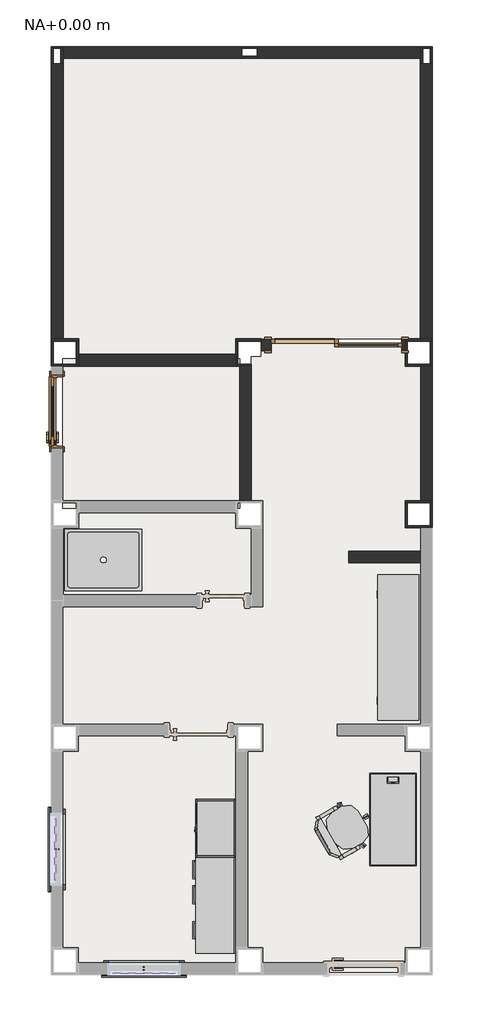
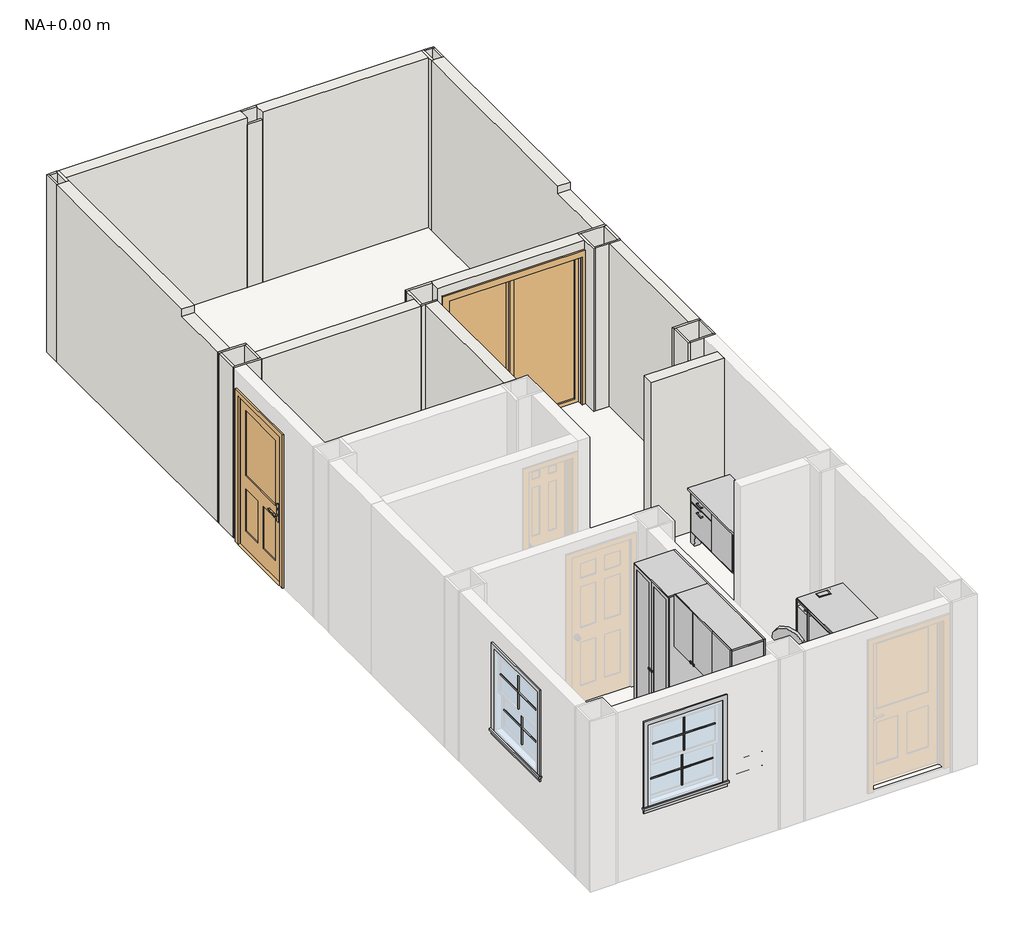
# One storey, part 2 of 2: 32 walls, 8 proxies, 4 furniture elements, 3 slabs, 2 doors, 1 flow terminal.
"""IFC4 building model written with IfcOpenShell, lengths in millimetres."""

from ifc_helpers import new_model, si_unit, origin, origin_with_axes, place, context, project, spatial, polyline, outline, extrude, faceted_brep, transform, mapped, element, save
from components import generic_models_dbf21484, generic_models_88e86241, m_moldura_ventana_exterior_plana_con_antepecho_fe713c81, door_750_x_2400mm_4532b83f, m_puerta_corredera_dos_hojas_1700_x_2000mm_d36f6dca, flow_terminal_1000_x_800_mm_dd5a154a, furniture_a6d00652, furniture_878a3a28, blanco_a21738ea, f03307_es_escritorio_frame_2019_0ddade11

model = new_model("IFC4")

# Units and contexts
model_context = context("Model", 3, world=origin())
ifc_project = project(units=[si_unit("LENGTHUNIT", "METRE", prefix="MILLI")], contexts=[model_context])

# Site, building, storey
site = spatial("IfcSite", under=ifc_project)
building = spatial("IfcBuilding", under=site)
storey = spatial("IfcBuildingStorey", under=building, Name="NA+0.00 m", Elevation=0.0)

# Proxies
placement = place(None, origin())
generic_models_shape = generic_models_dbf21484(model_context)
element("IfcBuildingElementProxy", 1, Name="M_Patrón de montante secundario_2x2 : M_Patrón de montante secundario_2x2", ObjectType="M_Patrón de montante secundario_2x2 : M_Patrón de montante secundario_2x2", at=placement, inside=storey, context=model_context, shape_type="MappedRepresentation", body=[
    mapped(generic_models_shape, transform((-1037.7561082, -5537.1867862, 1486.625), x_axis=(0.0, 1.0, 0.0), y_axis=(-1.0, 0.0, 0.0), z_axis=(0.0, 0.0, 1.0))),
])
element("IfcBuildingElementProxy", 2, Name="M_Patrón de montante secundario_2x2 : M_Patrón de montante secundario_2x2", ObjectType="M_Patrón de montante secundario_2x2 : M_Patrón de montante secundario_2x2", at=placement, inside=storey, context=model_context, shape_type="MappedRepresentation", body=[
    mapped(generic_models_shape, transform((-993.3061082, -5537.1867862, 990.6), x_axis=(0.0, 1.0, 0.0), y_axis=(-1.0, 0.0, 0.0), z_axis=(0.0, 0.0, 1.0))),
])
generic_models_2_shape = generic_models_88e86241(model_context)
element("IfcBuildingElementProxy", 3, Name="M_Cubrejuntas-Ventana-Interior-Plano : Marco de cuadro", ObjectType="M_Cubrejuntas-Ventana-Interior-Plano : Marco de cuadro", at=placement, inside=storey, context=model_context, shape_type="MappedRepresentation", body=[
    mapped(generic_models_2_shape, transform((-922.6811082, -5537.1867862, 2014.4), x_axis=(0.0, 1.0, 0.0), y_axis=(0.0, 0.0, 1.0), z_axis=(1.0, 0.0, 0.0))),
])
element("IfcBuildingElementProxy", 4, Name="M_Patrón de montante secundario_2x2 : M_Patrón de montante secundario_2x2", ObjectType="M_Patrón de montante secundario_2x2 : M_Patrón de montante secundario_2x2", at=placement, inside=storey, context=model_context, shape_type="MappedRepresentation", body=[
    mapped(generic_models_shape, transform((132.3188918, -7127.2617862, 1486.625), x_axis=(-1.0, 0.0, 0.0), y_axis=(0.0, -1.0, 0.0), z_axis=(0.0, 0.0, 1.0))),
])
element("IfcBuildingElementProxy", 5, Name="M_Patrón de montante secundario_2x2 : M_Patrón de montante secundario_2x2", ObjectType="M_Patrón de montante secundario_2x2 : M_Patrón de montante secundario_2x2", at=placement, inside=storey, context=model_context, shape_type="MappedRepresentation", body=[
    mapped(generic_models_shape, transform((132.3188918, -7082.8117862, 990.6), x_axis=(-1.0, 0.0, 0.0), y_axis=(0.0, -1.0, 0.0), z_axis=(0.0, 0.0, 1.0))),
])
element("IfcBuildingElementProxy", 6, Name="M_Cubrejuntas-Ventana-Interior-Plano : Marco de cuadro", ObjectType="M_Cubrejuntas-Ventana-Interior-Plano : Marco de cuadro", at=placement, inside=storey, context=model_context, shape_type="MappedRepresentation", body=[
    mapped(generic_models_2_shape, transform((132.3188918, -7012.1867862, 2014.4), x_axis=(-1.0, 0.0, 0.0), y_axis=(0.0, 0.0, 1.0), z_axis=(0.0, 1.0, 0.0))),
])
m_moldura_ventana_exterior_plana_con_antepecho_shape = m_moldura_ventana_exterior_plana_con_antepecho_fe713c81(model_context)
element("IfcBuildingElementProxy", 7, Name="M_Moldura-Ventana-Exterior-Plana : con antepecho", ObjectType="M_Moldura-Ventana-Exterior-Plana : con antepecho", at=placement, inside=storey, context=model_context, shape_type="MappedRepresentation", body=[
    mapped(m_moldura_ventana_exterior_plana_con_antepecho_shape, transform((-1072.6811082, -5537.1867862, 2014.4), x_axis=(0.0, -1.0, 0.0), y_axis=(0.0, 0.0, 1.0), z_axis=(-1.0, 0.0, 0.0))),
])
element("IfcBuildingElementProxy", 8, Name="M_Moldura-Ventana-Exterior-Plana : con antepecho", ObjectType="M_Moldura-Ventana-Exterior-Plana : con antepecho", at=placement, inside=storey, context=model_context, shape_type="MappedRepresentation", body=[
    mapped(m_moldura_ventana_exterior_plana_con_antepecho_shape, transform((132.3188918, -7162.1867862, 2014.4), x_axis=(1.0, 0.0, 0.0), y_axis=(0.0, 0.0, 1.0), z_axis=(0.0, -1.0, 0.0))),
])

# Doors
door_750_x_2400mm_shape = door_750_x_2400mm_4532b83f(model_context)
element("IfcDoor", 9, ObjectType="M_Puerta-Exterior-Simple-Entrada-Cristal_plano_mitad-Revest_madera : 750 x 2400mm", at=placement, inside=storey, context=model_context, shape_type="MappedRepresentation", body=[
    mapped(door_750_x_2400mm_shape, transform((-1000.8561082, 147.8132138, 0.0), x_axis=(0.0, -1.0, 0.0), y_axis=(1.0, 0.0, 0.0), z_axis=(0.0, 0.0, 1.0))),
])
m_puerta_corredera_dos_hojas_1700_x_2000mm_shape = m_puerta_corredera_dos_hojas_1700_x_2000mm_d36f6dca(model_context)
element("IfcDoor", 10, ObjectType="M_Puerta-Corredera-Dos_hojas : 1700 x 2000mm", at=placement, inside=storey, context=model_context, shape_type="MappedRepresentation", body=[
    mapped(m_puerta_corredera_dos_hojas_1700_x_2000mm_shape, transform((2632.3188918, 885.8132138, 100.0), x_axis=(1.0, 0.0, 0.0), y_axis=(0.0, 1.0, 0.0), z_axis=(0.0, 0.0, 1.0))),
])

# Flow terminal
flow_terminal_1000_x_800_mm_shape = flow_terminal_1000_x_800_mm_dd5a154a(model_context)
element("IfcFlowTerminal", 11, ObjectType="Cubeta de ducha - Desagüe centrado : 1000 x 800 mm", at=placement, inside=storey, context=model_context, shape_type="MappedRepresentation", body=[
    mapped(flow_terminal_1000_x_800_mm_shape, transform((-395.1811082, -1777.1867862, 100.0), x_axis=(-1.0, 0.0, 0.0), y_axis=(0.0, -1.0, 0.0), z_axis=(0.0, 0.0, 1.0))),
])

# Furniture
furniture_shape = furniture_a6d00652(model_context)
element("IfcFurniture", 12, ObjectType="M_Silla-Ejecutivo : M_Silla-Ejecutivo", at=placement, inside=storey, context=model_context, shape_type="MappedRepresentation", body=[
    mapped(furniture_shape, transform((2655.2558662, -5158.7514752, 100.0), x_axis=(0.4999999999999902, -0.8660254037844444, 0.0), y_axis=(0.8660254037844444, 0.4999999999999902, 0.0), z_axis=(0.0, 0.0, 1.0))),
])
furniture_2_shape = furniture_878a3a28(model_context)
element("IfcFurniture", 13, ObjectType="Credencia 1 : 1830 x 610 x 734  mm", at=placement, inside=storey, context=model_context, shape_type="MappedRepresentation", body=[
    mapped(furniture_2_shape, transform((3442.7385639, -2856.2310484, 100.0), x_axis=(0.0, -1.0, 0.0), y_axis=(1.0, 0.0, 0.0), z_axis=(0.0, 0.0, 1.0))),
])
blanco_shape = blanco_a21738ea(model_context)
element("IfcFurniture", 14, ObjectType="F06582_ES_Cocina-Modulable-Botanic.2019 : Blanco", at=placement, inside=storey, context=model_context, shape_type="MappedRepresentation", body=[
    mapped(blanco_shape, transform((1012.3188918, -5144.6867862, 200.0), x_axis=(0.0, -1.0, 0.0), y_axis=(1.0, 0.0, 0.0), z_axis=(0.0, 0.0, 1.0))),
])
f03307_es_escritorio_frame_2019_shape = f03307_es_escritorio_frame_2019_0ddade11(model_context)
element("IfcFurniture", 15, ObjectType="F03307_ES_Escritorio-Frame.2019 : Único", at=placement, inside=storey, context=model_context, shape_type="MappedRepresentation", body=[
    mapped(f03307_es_escritorio_frame_2019_shape, transform((3064.8188918, -5149.6867862, 200.0), x_axis=(0.0, 1.0, 0.0), y_axis=(-1.0, 0.0, 0.0), z_axis=(0.0, 0.0, 1.0))),
])

# Slabs
element("IfcSlab", 16, ObjectType="HECM - Suelo de porcelanato Ease Sand 60x60", at=placement, inside=storey, context=model_context, shape_type="Brep", body=[
    faceted_brep([(-722.6811082, -7012.1867862, 0.0), (-722.6811082, -6812.1867862, 0.0), (-922.6811082, -6812.1867862, 0.0), (-922.6811082, -4262.1867862, 0.0), (-722.6811082, -4262.1867862, 0.0), (-722.6811082, -4062.1867862, 0.0), (402.3188918, -4062.1867862, 0.0), (402.3188918, -3912.1867862, 0.0), (-722.6811082, -3912.1867862, 0.0), (-917.6811082, -3912.1867862, 0.0), (-917.6811082, -2387.1867862, 0.0), (677.3188918, -2387.1867862, 0.0), (677.3188918, -2232.1867862, 0.0), (1522.3188918, -2232.1867862, 0.0), (1522.3188918, -2387.1867862, 0.0), (1677.3188918, -2387.1867862, 0.0), (1677.3188918, -1012.1867862, 0.0), (1527.3188918, -1012.1867862, 0.0), (1527.3188918, 862.8132138, 0.0), (1652.3188918, 862.8132138, 0.0), (1652.3188918, 937.8132138, 0.0), (1782.3188918, 937.8132138, 0.0), (1782.3188918, 1087.8132138, 0.0), (3482.3188918, 1087.8132138, 0.0), (3482.3188918, 937.8132138, 0.0), (3527.3188918, 937.8132138, 0.0), (3527.3188918, 737.8132138, 0.0), (3727.3188918, 737.8132138, 0.0), (3727.3188918, -1012.1867862, 0.0), (3527.3188918, -1012.1867862, 0.0), (3527.3188918, -1362.1867862, 0.0), (3727.3188918, -1362.1867862, 0.0), (3727.3188918, -1664.6867862, 0.0), (3727.3188918, -3912.1867862, 0.0), (2639.8188918, -3912.1867862, 0.0), (2639.8188918, -4062.1867862, 0.0), (3527.3188918, -4062.1867862, 0.0), (3527.3188918, -4262.1867862, 0.0), (3727.3188918, -4262.1867862, 0.0), (3727.3188918, -6812.1867862, 0.0), (3527.3188918, -6812.1867862, 0.0), (3527.3188918, -7012.1867862, 0.0), (3462.3188918, -7012.1867862, 0.0), (3462.3188918, -7137.1867862, 0.0), (2512.3188918, -7137.1867862, 0.0), (2512.3188918, -7012.1867862, 0.0), (1677.3188918, -7012.1867862, 0.0), (1677.3188918, -6812.1867862, 0.0), (1477.3188918, -6812.1867862, 0.0), (1477.3188918, -4262.1867862, 0.0), (1677.3188918, -4262.1867862, 0.0), (1677.3188918, -3912.1867862, 0.0), (1327.3188918, -3912.1867862, 0.0), (1252.3188918, -3912.1867862, 0.0), (1252.3188918, -4062.1867862, 0.0), (1327.3188918, -4062.1867862, 0.0), (1327.3188918, -7012.1867862, 0.0), (-722.6811082, -7012.1867862, 100.0), (1327.3188918, -7012.1867862, 100.0), (1327.3188918, -4062.1867862, 100.0), (1252.3188918, -4062.1867862, 100.0), (1252.3188918, -3912.1867862, 100.0), (1677.3188918, -3912.1867862, 100.0), (1677.3188918, -4262.1867862, 100.0), (1477.3188918, -4262.1867862, 100.0), (1477.3188918, -6812.1867862, 100.0), (1677.3188918, -6812.1867862, 100.0), (1677.3188918, -7012.1867862, 100.0), (2512.3188918, -7012.1867862, 100.0), (2512.3188918, -7137.1867862, 100.0), (3462.3188918, -7137.1867862, 100.0), (3462.3188918, -7012.1867862, 100.0), (3527.3188918, -7012.1867862, 100.0), (3527.3188918, -6812.1867862, 100.0), (3727.3188918, -6812.1867862, 100.0), (3727.3188918, -4262.1867862, 100.0), (3527.3188918, -4262.1867862, 100.0), (3527.3188918, -4062.1867862, 100.0), (2639.8188918, -4062.1867862, 100.0), (2639.8188918, -3912.1867862, 100.0), (3727.3188918, -3912.1867862, 100.0), (3727.3188918, -1664.6867862, 100.0), (3727.3188918, -1362.1867862, 100.0), (3527.3188918, -1362.1867862, 100.0), (3527.3188918, -1012.1867862, 100.0), (3727.3188918, -1012.1867862, 100.0), (3727.3188918, 737.8132138, 100.0), (3527.3188918, 737.8132138, 100.0), (3527.3188918, 937.8132138, 100.0), (3482.3188918, 937.8132138, 100.0), (3482.3188918, 1087.8132138, 100.0), (1782.3188918, 1087.8132138, 100.0), (1782.3188918, 937.8132138, 100.0), (1652.3188918, 937.8132138, 100.0), (1652.3188918, 862.8132138, 100.0), (1527.3188918, 862.8132138, 100.0), (1527.3188918, -1012.1867862, 100.0), (1677.3188918, -1012.1867862, 100.0), (1677.3188918, -2387.1867862, 100.0), (1522.3188918, -2387.1867862, 100.0), (1522.3188918, -2232.1867862, 100.0), (1462.3188918, -2232.1867862, 100.0), (862.3188918, -2232.1867862, 100.0), (677.3188918, -2232.1867862, 100.0), (677.3188918, -2387.1867862, 100.0), (-917.6811082, -2387.1867862, 100.0), (-917.6811082, -3912.1867862, 100.0), (402.3188918, -3912.1867862, 100.0), (402.3188918, -4062.1867862, 100.0), (-722.6811082, -4062.1867862, 100.0), (-722.6811082, -4262.1867862, 100.0), (-922.6811082, -4262.1867862, 100.0), (-922.6811082, -6812.1867862, 100.0), (-722.6811082, -6812.1867862, 100.0)], [[[0, 1, 2, 3, 4, 5, 6, 7, 8, 9, 10, 11, 12, 13, 14, 15, 16, 17, 18, 19, 20, 21, 22, 23, 24, 25, 26, 27, 28, 29, 30, 31, 32, 33, 34, 35, 36, 37, 38, 39, 40, 41, 42, 43, 44, 45, 46, 47, 48, 49, 50, 51, 52, 53, 54, 55, 56]], [[57, 58, 59, 60, 61, 62, 63, 64, 65, 66, 67, 68, 69, 70, 71, 72, 73, 74, 75, 76, 77, 78, 79, 80, 81, 82, 83, 84, 85, 86, 87, 88, 89, 90, 91, 92, 93, 94, 95, 96, 97, 98, 99, 100, 101, 102, 103, 104, 105, 106, 107, 108, 109, 110, 111, 112, 113]], [[1, 0, 57, 113]], [[2, 1, 113, 112]], [[3, 2, 112, 111]], [[4, 3, 111, 110]], [[5, 4, 110, 109]], [[6, 5, 109, 108]], [[7, 6, 108, 107]], [[9, 8, 7, 107, 106]], [[10, 9, 106, 105]], [[11, 10, 105, 104]], [[12, 11, 104, 103]], [[13, 12, 103, 102, 101, 100]], [[14, 13, 100, 99]], [[15, 14, 99, 98]], [[16, 15, 98, 97]], [[17, 16, 97, 96]], [[18, 17, 96, 95]], [[19, 18, 95, 94]], [[20, 19, 94, 93]], [[21, 20, 93, 92]], [[22, 21, 92, 91]], [[23, 22, 91, 90]], [[24, 23, 90, 89]], [[25, 24, 89, 88]], [[26, 25, 88, 87]], [[27, 26, 87, 86]], [[28, 27, 86, 85]], [[29, 28, 85, 84]], [[30, 29, 84, 83]], [[31, 30, 83, 82]], [[32, 31, 82, 81]], [[33, 32, 81, 80]], [[34, 33, 80, 79]], [[35, 34, 79, 78]], [[36, 35, 78, 77]], [[37, 36, 77, 76]], [[38, 37, 76, 75]], [[39, 38, 75, 74]], [[40, 39, 74, 73]], [[41, 40, 73, 72]], [[42, 41, 72, 71]], [[43, 42, 71, 70]], [[44, 43, 70, 69]], [[45, 44, 69, 68]], [[46, 45, 68, 67]], [[47, 46, 67, 66]], [[48, 47, 66, 65]], [[49, 48, 65, 64]], [[50, 49, 64, 63]], [[51, 50, 63, 62]], [[53, 52, 51, 62, 61]], [[54, 53, 61, 60]], [[55, 54, 60, 59]], [[56, 55, 59, 58]], [[0, 56, 58, 57]]]),
    faceted_brep([(-922.6811082, -1107.1867862, 0.0), (-922.6811082, 832.8132138, 0.0), (1377.3188918, 832.8132138, 0.0), (1377.3188918, -1107.1867862, 0.0), (-922.6811082, -1107.1867862, 100.0), (1377.3188918, -1107.1867862, 100.0), (1377.3188918, 832.8132138, 100.0), (-922.6811082, 832.8132138, 100.0)], [[[0, 1, 2, 3]], [[4, 5, 6, 7]], [[1, 0, 4, 7]], [[2, 1, 7, 6]], [[3, 2, 6, 5]], [[0, 3, 5, 4]]]),
])
element("IfcSlab", 17, ObjectType="HECM - Suelo de ceramica Manchester Grey", at=placement, inside=storey, context=model_context, shape_type="SweptSolid", body=[
    extrude(outline(polyline([(-722.6811082, -1362.1867862), (-722.6811082, -1167.1867862), (1327.3188918, -1167.1867862), (1327.3188918, -1362.1867862), (1522.3188918, -1362.1867862), (1522.3188918, -2232.1867862), (-922.6811082, -2232.1867862), (-922.6811082, -1362.1867862), (-722.6811082, -1362.1867862)])), origin_with_axes(), (0.0, 0.0, 1.0), 100.0),
])
element("IfcSlab", 18, ObjectType="HECM - Suelo de ceramica Manchester Grey", at=placement, inside=storey, context=model_context, shape_type="SweptSolid", body=[
    extrude(outline(polyline([(-917.6811082, 1092.8132138), (-917.6811082, 4732.8132138), (3722.3188918, 4732.8132138), (3722.3188918, 1092.8132138), (1322.3188918, 1092.8132138), (1322.3188918, 892.8132138), (-717.6811082, 892.8132138), (-717.6811082, 1092.8132138), (-917.6811082, 1092.8132138)])), origin_with_axes(), (0.0, 0.0, 1.0), 100.0),
])

# Walls
element("IfcWall", 19, ObjectType="HECM - Muro Pintura Blanca 2 caras", at=placement, inside=storey, context=model_context, shape_type="Brep", body=[
    faceted_brep([(1527.3188918, -1012.1867862, 0.0), (1527.3188918, 737.8132138, 0.0), (1527.3188918, 737.8132138, 2300.0), (1527.3188918, -1012.1867862, 2300.0), (1377.3188918, -1012.1867862, 0.0), (1377.3188918, -1012.1867862, 2300.0), (1377.3188918, 737.8132138, 2300.0), (1377.3188918, 737.8132138, 0.0), (1452.3188918, -1012.1867862, 0.0), (1452.3188918, -1012.1867862, 2300.0)], [[[0, 1, 2, 3]], [[4, 5, 6, 7]], [[1, 0, 8, 4, 7]], [[3, 2, 6, 5, 9]], [[2, 1, 7, 6]], [[0, 3, 9, 5, 4, 8]]]),
])
element("IfcWall", 20, ObjectType="HECM - Muro Fachada - Pintura Blanca", at=placement, inside=storey, context=model_context, shape_type="SweptSolid", body=[
    extrude(outline(polyline([(3877.3188918, 737.8132138), (3877.3188918, -1012.1867862), (3727.3188918, -1012.1867862), (3727.3188918, 737.8132138), (3877.3188918, 737.8132138)])), origin_with_axes(), (0.0, 0.0, 1.0), 2300.0),
])
element("IfcWall", 21, ObjectType="HECM - Muro Fachada - Enchape patio", at=placement, inside=storey, context=model_context, shape_type="Brep", body=[
    faceted_brep([(3722.3188918, 4887.8132138, 0.0), (1602.3188918, 4887.8132138, 0.0), (1602.3188918, 4887.8132138, 2400.0), (3722.3188918, 4887.8132138, 2400.0), (3722.3188918, 4732.8132138, 0.0), (3722.3188918, 4732.8132138, 2400.0), (1602.3188918, 4732.8132138, 2400.0), (1602.3188918, 4732.8132138, 2300.0), (1602.3188918, 4732.8132138, 0.0), (1602.3188918, 4762.8132138, 0.0), (1602.3188918, 4862.8132138, 0.0), (1602.3188918, 4862.8132138, 2400.0)], [[[0, 1, 2, 3]], [[4, 5, 6, 7, 8]], [[1, 0, 4, 8, 9, 10]], [[3, 2, 11, 6, 5]], [[1, 10, 9, 8, 7, 6, 11, 2]], [[0, 3, 5, 4]]]),
])
element("IfcWall", 22, ObjectType="HECM - Muro Fachada - Enchape patio", at=placement, inside=storey, context=model_context, shape_type="Brep", body=[
    faceted_brep([(1402.3188918, 4887.8132138, 2400.0), (1402.3188918, 4887.8132138, 0.0), (-917.6811082, 4887.8132138, 0.0), (-917.6811082, 4887.8132138, 2400.0), (1402.3188918, 4732.8132138, 0.0), (1402.3188918, 4732.8132138, 2300.0), (1402.3188918, 4732.8132138, 2400.0), (-917.6811082, 4732.8132138, 2400.0), (-917.6811082, 4732.8132138, 0.0), (1402.3188918, 4862.8132138, 0.0), (1402.3188918, 4762.8132138, 0.0), (1402.3188918, 4862.8132138, 2400.0)], [[[0, 1, 2, 3]], [[4, 5, 6, 7, 8]], [[2, 1, 9, 10, 4, 8]], [[0, 3, 7, 6, 11]], [[0, 11, 6, 5, 4, 10, 9, 1]], [[3, 2, 8, 7]]]),
])
element("IfcWall", 23, ObjectType="HECM - Muro Pintura Blanca 2 caras", at=placement, inside=storey, context=model_context, shape_type="Brep", body=[
    faceted_brep([(1652.3188918, 1087.8132138, 0.0), (1652.3188918, 1087.8132138, 2300.0), (3527.3188918, 1087.8132138, 2300.0), (3527.3188918, 1087.8132138, 0.0), (3482.3188918, 1087.8132138, 0.0), (3482.3188918, 1087.8132138, 100.0), (3482.3188918, 1087.8132138, 2100.0), (1782.3188918, 1087.8132138, 2100.0), (1782.3188918, 1087.8132138, 100.0), (1782.3188918, 1087.8132138, 0.0), (3527.3188918, 937.8132138, 2300.0), (1652.3188918, 937.8132138, 2300.0), (1652.3188918, 937.8132138, 100.0), (1652.3188918, 937.8132138, 0.0), (1782.3188918, 937.8132138, 0.0), (1782.3188918, 937.8132138, 100.0), (1782.3188918, 937.8132138, 2100.0), (3482.3188918, 937.8132138, 2100.0), (3482.3188918, 937.8132138, 100.0), (3482.3188918, 937.8132138, 0.0), (3527.3188918, 937.8132138, 0.0), (3527.3188918, 937.8132138, 100.0), (3527.3188918, 1062.8132138, 0.0), (1652.3188918, 1062.8132138, 0.0), (1652.3188918, 1062.8132138, 2300.0), (3527.3188918, 1062.8132138, 2300.0)], [[[0, 1, 2, 3, 4, 5, 6, 7, 8, 9]], [[10, 11, 12, 13, 14, 15, 16, 17, 18, 19, 20, 21]], [[3, 22, 20, 19, 4]], [[13, 23, 0, 9, 14]], [[1, 0, 23, 13, 12, 11, 24]], [[2, 1, 24, 11, 10, 25]], [[7, 16, 15, 14, 9, 8]], [[4, 19, 18, 17, 6, 5]], [[7, 6, 17, 16]], [[3, 2, 25, 10, 21, 20, 22]]]),
])
element("IfcWall", 24, ObjectType="HECM - Acabado de pintura blanca", at=placement, inside=storey, context=model_context, shape_type="Brep", body=[
    faceted_brep([(3877.3188918, -1012.1867862, 0.0), (3727.3188918, -1012.1867862, 0.0), (3527.3188918, -1012.1867862, 0.0), (3527.3188918, -1012.1867862, 2300.0), (3727.3188918, -1012.1867862, 2300.0), (3877.3188918, -1012.1867862, 2300.0), (3877.3188918, -1037.1867862, 0.0), (3877.3188918, -1037.1867862, 2300.0), (3852.3188918, -1037.1867862, 2300.0), (3552.3188918, -1037.1867862, 2300.0), (3527.3188918, -1037.1867862, 2300.0), (3527.3188918, -1037.1867862, 0.0), (3552.3188918, -1037.1867862, 0.0), (3852.3188918, -1037.1867862, 0.0)], [[[0, 1, 2, 3, 4, 5]], [[6, 7, 8, 9, 10, 11, 12, 13]], [[2, 1, 0, 6, 13, 12, 11]], [[5, 4, 3, 10, 9, 8, 7]], [[0, 5, 7, 6]], [[3, 2, 11, 10]]]),
])
element("IfcWall", 25, ObjectType="HECM - Acabado de pintura blanca", at=placement, inside=storey, context=model_context, shape_type="Brep", body=[
    faceted_brep([(3527.3188918, -1037.1867862, 0.0), (3527.3188918, -1362.1867862, 0.0), (3527.3188918, -1362.1867862, 2300.0), (3527.3188918, -1037.1867862, 2300.0), (3552.3188918, -1037.1867862, 0.0), (3552.3188918, -1037.1867862, 2300.0), (3552.3188918, -1337.1867862, 2300.0), (3552.3188918, -1362.1867862, 2300.0), (3552.3188918, -1362.1867862, 0.0), (3552.3188918, -1337.1867862, 0.0)], [[[0, 1, 2, 3]], [[4, 5, 6, 7, 8, 9]], [[1, 0, 4, 9, 8]], [[3, 2, 7, 6, 5]], [[0, 3, 5, 4]], [[2, 1, 8, 7]]]),
])
element("IfcWall", 26, ObjectType="HECM - Acabado de pintura blanca", at=placement, inside=storey, context=model_context, shape_type="Brep", body=[
    faceted_brep([(3552.3188918, -1362.1867862, 0.0), (3727.3188918, -1362.1867862, 0.0), (3877.3188918, -1362.1867862, 0.0), (3877.3188918, -1362.1867862, 2300.0), (3727.3188918, -1362.1867862, 2300.0), (3552.3188918, -1362.1867862, 2300.0), (3552.3188918, -1337.1867862, 0.0), (3552.3188918, -1337.1867862, 2300.0), (3852.3188918, -1337.1867862, 2300.0), (3877.3188918, -1337.1867862, 2300.0), (3877.3188918, -1337.1867862, 0.0), (3852.3188918, -1337.1867862, 0.0)], [[[0, 1, 2, 3, 4, 5]], [[6, 7, 8, 9, 10, 11]], [[2, 1, 0, 6, 11, 10]], [[5, 4, 3, 9, 8, 7]], [[3, 2, 10, 9]], [[0, 5, 7, 6]]]),
])
element("IfcWall", 27, ObjectType="HECM - Acabado de pintura blanca", at=placement, inside=storey, context=model_context, shape_type="Brep", body=[
    faceted_brep([(3527.3188918, 1062.8132138, 0.0), (3527.3188918, 937.8132138, 0.0), (3527.3188918, 737.8132138, 0.0), (3527.3188918, 737.8132138, 2300.0), (3527.3188918, 937.8132138, 2300.0), (3527.3188918, 1062.8132138, 2300.0), (3552.3188918, 1062.8132138, 0.0), (3552.3188918, 1062.8132138, 2300.0), (3552.3188918, 762.8132138, 2300.0), (3552.3188918, 737.8132138, 2300.0), (3552.3188918, 737.8132138, 0.0), (3552.3188918, 762.8132138, 0.0)], [[[0, 1, 2, 3, 4, 5]], [[6, 7, 8, 9, 10, 11]], [[2, 1, 0, 6, 11, 10]], [[5, 4, 3, 9, 8, 7]], [[3, 2, 10, 9]], [[0, 5, 7, 6]]]),
])
element("IfcWall", 28, ObjectType="HECM - Acabado de pintura blanca", at=placement, inside=storey, context=model_context, shape_type="Brep", body=[
    faceted_brep([(3552.3188918, 737.8132138, 0.0), (3727.3188918, 737.8132138, 0.0), (3877.3188918, 737.8132138, 0.0), (3877.3188918, 737.8132138, 2300.0), (3727.3188918, 737.8132138, 2300.0), (3552.3188918, 737.8132138, 2300.0), (3552.3188918, 762.8132138, 0.0), (3552.3188918, 762.8132138, 2300.0), (3852.3188918, 762.8132138, 2300.0), (3877.3188918, 762.8132138, 2300.0), (3877.3188918, 762.8132138, 0.0), (3852.3188918, 762.8132138, 0.0)], [[[0, 1, 2, 3, 4, 5]], [[6, 7, 8, 9, 10, 11]], [[2, 1, 0, 6, 11, 10]], [[5, 4, 3, 9, 8, 7]], [[3, 2, 10, 9]], [[0, 5, 7, 6]]]),
])
element("IfcWall", 29, ObjectType="HECM - Muro Pintura Blanca - enchape patio", at=placement, inside=storey, context=model_context, shape_type="Brep", body=[
    faceted_brep([(1322.3188918, 892.8132138, 0.0), (-717.6811082, 892.8132138, 0.0), (-717.6811082, 892.8132138, 2300.0), (1322.3188918, 892.8132138, 2300.0), (1322.3188918, 737.8132138, 0.0), (1322.3188918, 737.8132138, 2300.0), (-717.6811082, 737.8132138, 2300.0), (-717.6811082, 737.8132138, 0.0), (1322.3188918, 762.8132138, 0.0), (-717.6811082, 762.8132138, 0.0), (-717.6811082, 762.8132138, 2300.0), (1322.3188918, 762.8132138, 2300.0)], [[[0, 1, 2, 3]], [[4, 5, 6, 7]], [[1, 0, 8, 4, 7, 9]], [[3, 2, 10, 6, 5, 11]], [[2, 1, 9, 7, 6, 10]], [[0, 3, 11, 5, 4, 8]]]),
])
element("IfcWall", 30, ObjectType="HECM - Muro Fachada - Enchape patio", at=placement, inside=storey, context=model_context, shape_type="Brep", body=[
    faceted_brep([(3877.3188918, 1092.8132138, 0.0), (3877.3188918, 4662.8132138, 0.0), (3877.3188918, 4662.8132138, 2400.0), (3877.3188918, 1862.8132138, 2400.0), (3877.3188918, 1862.8132138, 2300.0), (3877.3188918, 1092.8132138, 2300.0), (3722.3188918, 1092.8132138, 0.0), (3722.3188918, 1092.8132138, 2300.0), (3722.3188918, 1862.8132138, 2300.0), (3722.3188918, 1862.8132138, 2400.0), (3722.3188918, 4662.8132138, 2400.0), (3722.3188918, 4662.8132138, 0.0), (3752.3188918, 4662.8132138, 0.0), (3852.3188918, 4662.8132138, 0.0), (3752.3188918, 4662.8132138, 2400.0), (3852.3188918, 4662.8132138, 2400.0), (3852.3188918, 1862.8132138, 2300.0)], [[[0, 1, 2, 3, 4, 5]], [[6, 7, 8, 9, 10, 11]], [[1, 0, 6, 11, 12, 13]], [[2, 1, 13, 12, 11, 10, 14, 15]], [[3, 2, 15, 14, 10, 9]], [[4, 3, 9, 8, 16]], [[5, 4, 16, 8, 7]], [[0, 5, 7, 6]]]),
])
element("IfcWall", 31, ObjectType="HECM - Muro Fachada - Enchape patio", at=placement, inside=storey, context=model_context, shape_type="Brep", body=[
    faceted_brep([(-917.6811082, 1092.8132138, 0.0), (-917.6811082, 4662.8132138, 0.0), (-917.6811082, 4662.8132138, 2400.0), (-917.6811082, 1887.8132138, 2400.0), (-917.6811082, 1887.8132138, 2300.0), (-917.6811082, 1092.8132138, 2300.0), (-1072.6811082, 1092.8132138, 0.0), (-1072.6811082, 1092.8132138, 2300.0), (-1072.6811082, 1887.8132138, 2300.0), (-1072.6811082, 1887.8132138, 2400.0), (-1072.6811082, 4662.8132138, 2400.0), (-1072.6811082, 4662.8132138, 0.0), (-1047.6811082, 4662.8132138, 0.0), (-947.6811082, 4662.8132138, 0.0), (-1047.6811082, 4662.8132138, 2400.0), (-947.6811082, 4662.8132138, 2400.0)], [[[0, 1, 2, 3, 4, 5]], [[6, 7, 8, 9, 10, 11]], [[1, 0, 6, 11, 12, 13]], [[2, 1, 13, 12, 11, 10, 14, 15]], [[3, 2, 15, 14, 10, 9]], [[5, 4, 8, 7]], [[0, 5, 7, 6]], [[4, 3, 9, 8]]]),
])
element("IfcWall", 32, ObjectType="HECM - Muro Pintura Blanca 2 caras", at=placement, inside=storey, context=model_context, shape_type="SweptSolid", body=[
    extrude(outline(polyline([(2792.3188918, -1664.6867862), (3727.3188918, -1664.6867862), (3727.3188918, -1814.6867862), (2792.3188918, -1814.6867862), (2792.3188918, -1664.6867862)])), origin_with_axes(), (0.0, 0.0, 1.0), 2300.0),
])
element("IfcWall", 33, ObjectType="HECM - Acabado de pintura blanca", at=placement, inside=storey, context=model_context, shape_type="SweptSolid", body=[
    extrude(outline(polyline([(-1047.6811082, 1062.8132138), (-1047.6811082, 762.8132138), (-1072.6811082, 762.8132138), (-1072.6811082, 1062.8132138), (-1047.6811082, 1062.8132138)])), origin_with_axes(), (0.0, 0.0, 1.0), 2300.0),
])
element("IfcWall", 34, ObjectType="HECM - Acabado de pintura blanca", at=placement, inside=storey, context=model_context, shape_type="SweptSolid", body=[
    extrude(outline(polyline([(3877.3188918, 1062.8132138), (3877.3188918, 762.8132138), (3852.3188918, 762.8132138), (3852.3188918, 1062.8132138), (3877.3188918, 1062.8132138)])), origin_with_axes(), (0.0, 0.0, 1.0), 2300.0),
])
element("IfcWall", 35, ObjectType="HECM - Acabado de pintura blanca", at=placement, inside=storey, context=model_context, shape_type="SweptSolid", body=[
    extrude(outline(polyline([(3877.3188918, -1037.1867862), (3877.3188918, -1337.1867862), (3852.3188918, -1337.1867862), (3852.3188918, -1037.1867862), (3877.3188918, -1037.1867862)])), origin_with_axes(), (0.0, 0.0, 1.0), 2300.0),
])
element("IfcWall", 36, ObjectType="HECM - Acabado de pintura blanca", at=placement, inside=storey, context=model_context, shape_type="Brep", body=[
    faceted_brep([(-1047.6811082, 4662.8132138, 0.0), (-1047.6811082, 4862.8132138, 0.0), (-1047.6811082, 4887.8132138, 0.0), (-1047.6811082, 4887.8132138, 2400.0), (-1047.6811082, 4862.8132138, 2400.0), (-1047.6811082, 4662.8132138, 2400.0), (-1072.6811082, 4662.8132138, 0.0), (-1072.6811082, 4662.8132138, 2400.0), (-1072.6811082, 4887.8132138, 2400.0), (-1072.6811082, 4887.8132138, 0.0)], [[[0, 1, 2, 3, 4, 5]], [[6, 7, 8, 9]], [[2, 1, 0, 6, 9]], [[5, 4, 3, 8, 7]], [[0, 5, 7, 6]], [[3, 2, 9, 8]]]),
])
element("IfcWall", 37, ObjectType="HECM - Acabado de pintura blanca", at=placement, inside=storey, context=model_context, shape_type="SweptSolid", body=[
    extrude(outline(polyline([(-947.6811082, 4862.8132138), (-1047.6811082, 4862.8132138), (-1047.6811082, 4887.8132138), (-947.6811082, 4887.8132138), (-947.6811082, 4862.8132138)])), origin_with_axes(), (0.0, 0.0, 1.0), 2400.0),
])
element("IfcWall", 38, ObjectType="HECM - Acabado de pintura blanca", at=placement, inside=storey, context=model_context, shape_type="SweptSolid", body=[
    extrude(outline(polyline([(1602.3188918, 4862.8132138), (1402.3188918, 4862.8132138), (1402.3188918, 4887.8132138), (1602.3188918, 4887.8132138), (1602.3188918, 4862.8132138)])), origin_with_axes(), (0.0, 0.0, 1.0), 2400.0),
])
element("IfcWall", 39, ObjectType="HECM - Acabado de pintura blanca", at=placement, inside=storey, context=model_context, shape_type="Brep", body=[
    faceted_brep([(3752.3188918, 4862.8132138, 0.0), (3852.3188918, 4862.8132138, 0.0), (3877.3188918, 4862.8132138, 0.0), (3877.3188918, 4862.8132138, 2400.0), (3852.3188918, 4862.8132138, 2400.0), (3752.3188918, 4862.8132138, 2400.0), (3752.3188918, 4887.8132138, 0.0), (3752.3188918, 4887.8132138, 2400.0), (3877.3188918, 4887.8132138, 2400.0), (3877.3188918, 4887.8132138, 0.0)], [[[0, 1, 2, 3, 4, 5]], [[6, 7, 8, 9]], [[2, 1, 0, 6, 9]], [[5, 4, 3, 8, 7]], [[3, 2, 9, 8]], [[0, 5, 7, 6]]]),
])
element("IfcWall", 40, ObjectType="HECM - Acabado de pintura blanca", at=placement, inside=storey, context=model_context, shape_type="SweptSolid", body=[
    extrude(outline(polyline([(3852.3188918, 4662.8132138), (3852.3188918, 4862.8132138), (3877.3188918, 4862.8132138), (3877.3188918, 4662.8132138), (3852.3188918, 4662.8132138)])), origin_with_axes(), (0.0, 0.0, 1.0), 2400.0),
])
element("IfcWall", 41, ObjectType="HECM - Enchape patio", at=placement, inside=storey, context=model_context, shape_type="Brep", body=[
    faceted_brep([(-917.6811082, 4662.8132138, 0.0), (-917.6811082, 4732.8132138, 0.0), (-917.6811082, 4887.8132138, 0.0), (-917.6811082, 4887.8132138, 2400.0), (-917.6811082, 4732.8132138, 2400.0), (-917.6811082, 4662.8132138, 2400.0), (-947.6811082, 4662.8132138, 0.0), (-947.6811082, 4662.8132138, 2400.0), (-947.6811082, 4862.8132138, 2400.0), (-947.6811082, 4887.8132138, 2400.0), (-947.6811082, 4887.8132138, 0.0), (-947.6811082, 4862.8132138, 0.0)], [[[0, 1, 2, 3, 4, 5]], [[6, 7, 8, 9, 10, 11]], [[2, 1, 0, 6, 11, 10]], [[5, 4, 3, 9, 8, 7]], [[0, 5, 7, 6]], [[3, 2, 10, 9]]]),
])
element("IfcWall", 42, ObjectType="HECM - Enchape patio", at=placement, inside=storey, context=model_context, shape_type="SweptSolid", body=[
    extrude(outline(polyline([(1602.3188918, 4732.8132138), (1402.3188918, 4732.8132138), (1402.3188918, 4762.8132138), (1602.3188918, 4762.8132138), (1602.3188918, 4732.8132138)])), origin_with_axes(), (0.0, 0.0, 1.0), 2300.0),
])
element("IfcWall", 43, ObjectType="HECM - Enchape patio", at=placement, inside=storey, context=model_context, shape_type="Brep", body=[
    faceted_brep([(3752.3188918, 4662.8132138, 0.0), (3752.3188918, 4862.8132138, 0.0), (3752.3188918, 4887.8132138, 0.0), (3752.3188918, 4887.8132138, 2400.0), (3752.3188918, 4862.8132138, 2400.0), (3752.3188918, 4662.8132138, 2400.0), (3722.3188918, 4662.8132138, 0.0), (3722.3188918, 4662.8132138, 2400.0), (3722.3188918, 4732.8132138, 2400.0), (3722.3188918, 4887.8132138, 2400.0), (3722.3188918, 4887.8132138, 0.0), (3722.3188918, 4732.8132138, 0.0)], [[[0, 1, 2, 3, 4, 5]], [[6, 7, 8, 9, 10, 11]], [[2, 1, 0, 6, 11, 10]], [[5, 4, 3, 9, 8, 7]], [[0, 5, 7, 6]], [[3, 2, 10, 9]]]),
])
element("IfcWall", 44, ObjectType="HECM - Enchape patio", at=placement, inside=storey, context=model_context, shape_type="Brep", body=[
    faceted_brep([(3527.3188918, 1062.8132138, 0.0), (3552.3188918, 1062.8132138, 0.0), (3852.3188918, 1062.8132138, 0.0), (3877.3188918, 1062.8132138, 0.0), (3877.3188918, 1062.8132138, 2300.0), (3852.3188918, 1062.8132138, 2300.0), (3552.3188918, 1062.8132138, 2300.0), (3527.3188918, 1062.8132138, 2300.0), (3527.3188918, 1092.8132138, 0.0), (3527.3188918, 1092.8132138, 2300.0), (3722.3188918, 1092.8132138, 2300.0), (3877.3188918, 1092.8132138, 2300.0), (3877.3188918, 1092.8132138, 0.0), (3722.3188918, 1092.8132138, 0.0), (3527.3188918, 1087.8132138, 0.0), (3527.3188918, 1087.8132138, 2300.0)], [[[0, 1, 2, 3, 4, 5, 6, 7]], [[8, 9, 10, 11, 12, 13]], [[3, 2, 1, 0, 14, 8, 13, 12]], [[7, 6, 5, 4, 11, 10, 9, 15]], [[4, 3, 12, 11]], [[0, 7, 15, 9, 8, 14]]]),
])
element("IfcWall", 45, ObjectType="HECM - Enchape patio", at=placement, inside=storey, context=model_context, shape_type="Brep", body=[
    faceted_brep([(1652.3188918, 1092.8132138, 0.0), (1322.3188918, 1092.8132138, 0.0), (1322.3188918, 1092.8132138, 2300.0), (1652.3188918, 1092.8132138, 2300.0), (1652.3188918, 1062.8132138, 0.0), (1652.3188918, 1062.8132138, 2300.0), (1352.3188918, 1062.8132138, 2300.0), (1322.3188918, 1062.8132138, 2300.0), (1322.3188918, 1062.8132138, 0.0), (1352.3188918, 1062.8132138, 0.0), (1652.3188918, 1087.8132138, 0.0), (1652.3188918, 1087.8132138, 2300.0)], [[[0, 1, 2, 3]], [[4, 5, 6, 7, 8, 9]], [[1, 0, 10, 4, 9, 8]], [[3, 2, 7, 6, 5, 11]], [[0, 3, 11, 5, 4, 10]], [[2, 1, 8, 7]]]),
])
element("IfcWall", 46, ObjectType="HECM - Enchape patio", at=placement, inside=storey, context=model_context, shape_type="Brep", body=[
    faceted_brep([(1322.3188918, 1062.8132138, 0.0), (1322.3188918, 892.8132138, 0.0), (1322.3188918, 762.8132138, 0.0), (1322.3188918, 762.8132138, 2300.0), (1322.3188918, 892.8132138, 2300.0), (1322.3188918, 1062.8132138, 2300.0), (1352.3188918, 1062.8132138, 0.0), (1352.3188918, 1062.8132138, 2300.0), (1352.3188918, 762.8132138, 2300.0), (1352.3188918, 762.8132138, 0.0)], [[[0, 1, 2, 3, 4, 5]], [[6, 7, 8, 9]], [[2, 1, 0, 6, 9]], [[5, 4, 3, 8, 7]], [[0, 5, 7, 6]], [[3, 2, 9, 8]]]),
])
element("IfcWall", 47, ObjectType="HECM - Enchape patio", at=placement, inside=storey, context=model_context, shape_type="Brep", body=[
    faceted_brep([(-717.6811082, 1092.8132138, 0.0), (-917.6811082, 1092.8132138, 0.0), (-1072.6811082, 1092.8132138, 0.0), (-1072.6811082, 1092.8132138, 2300.0), (-917.6811082, 1092.8132138, 2300.0), (-717.6811082, 1092.8132138, 2300.0), (-717.6811082, 1062.8132138, 0.0), (-717.6811082, 1062.8132138, 2300.0), (-747.6811082, 1062.8132138, 2300.0), (-1047.6811082, 1062.8132138, 2300.0), (-1072.6811082, 1062.8132138, 2300.0), (-1072.6811082, 1062.8132138, 0.0), (-1047.6811082, 1062.8132138, 0.0), (-747.6811082, 1062.8132138, 0.0)], [[[0, 1, 2, 3, 4, 5]], [[6, 7, 8, 9, 10, 11, 12, 13]], [[2, 1, 0, 6, 13, 12, 11]], [[5, 4, 3, 10, 9, 8, 7]], [[3, 2, 11, 10]], [[0, 5, 7, 6]]]),
])
element("IfcWall", 48, ObjectType="HECM - Enchape patio", at=placement, inside=storey, context=model_context, shape_type="Brep", body=[
    faceted_brep([(-747.6811082, 1062.8132138, 0.0), (-747.6811082, 762.8132138, 0.0), (-747.6811082, 762.8132138, 2300.0), (-747.6811082, 1062.8132138, 2300.0), (-717.6811082, 1062.8132138, 0.0), (-717.6811082, 1062.8132138, 2300.0), (-717.6811082, 892.8132138, 2300.0), (-717.6811082, 762.8132138, 2300.0), (-717.6811082, 762.8132138, 0.0), (-717.6811082, 892.8132138, 0.0)], [[[0, 1, 2, 3]], [[4, 5, 6, 7, 8, 9]], [[1, 0, 4, 9, 8]], [[3, 2, 7, 6, 5]], [[0, 3, 5, 4]], [[2, 1, 8, 7]]]),
])
element("IfcWall", 49, ObjectType="HECM - Acabado de pintura blanca", at=placement, inside=storey, context=model_context, shape_type="Brep", body=[
    faceted_brep([(-717.6811082, 762.8132138, 0.0), (-747.6811082, 762.8132138, 0.0), (-1047.6811082, 762.8132138, 0.0), (-1072.6811082, 762.8132138, 0.0), (-1072.6811082, 762.8132138, 2300.0), (-1047.6811082, 762.8132138, 2300.0), (-747.6811082, 762.8132138, 2300.0), (-717.6811082, 762.8132138, 2300.0), (-717.6811082, 737.8132138, 0.0), (-717.6811082, 737.8132138, 2300.0), (-922.6811082, 737.8132138, 2300.0), (-1072.6811082, 737.8132138, 2300.0), (-1072.6811082, 737.8132138, 0.0), (-922.6811082, 737.8132138, 0.0)], [[[0, 1, 2, 3, 4, 5, 6, 7]], [[8, 9, 10, 11, 12, 13]], [[3, 2, 1, 0, 8, 13, 12]], [[7, 6, 5, 4, 11, 10, 9]], [[4, 3, 12, 11]], [[0, 7, 9, 8]]]),
])
element("IfcWall", 50, ObjectType="HECM - Acabado de pintura blanca", at=placement, inside=storey, context=model_context, shape_type="Brep", body=[
    faceted_brep([(1322.3188918, 737.8132138, 0.0), (1377.3188918, 737.8132138, 0.0), (1527.3188918, 737.8132138, 0.0), (1527.3188918, 737.8132138, 2300.0), (1377.3188918, 737.8132138, 2300.0), (1322.3188918, 737.8132138, 2300.0), (1322.3188918, 762.8132138, 0.0), (1322.3188918, 762.8132138, 2300.0), (1352.3188918, 762.8132138, 2300.0), (1527.3188918, 762.8132138, 2300.0), (1527.3188918, 762.8132138, 0.0), (1352.3188918, 762.8132138, 0.0)], [[[0, 1, 2, 3, 4, 5]], [[6, 7, 8, 9, 10, 11]], [[2, 1, 0, 6, 11, 10]], [[5, 4, 3, 9, 8, 7]], [[3, 2, 10, 9]], [[0, 5, 7, 6]]]),
])

save(model, "model.ifc")
